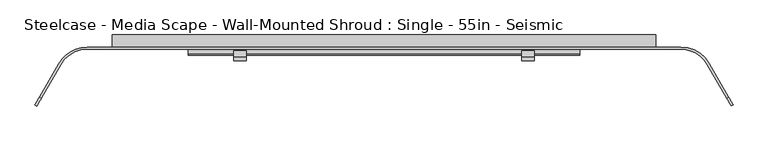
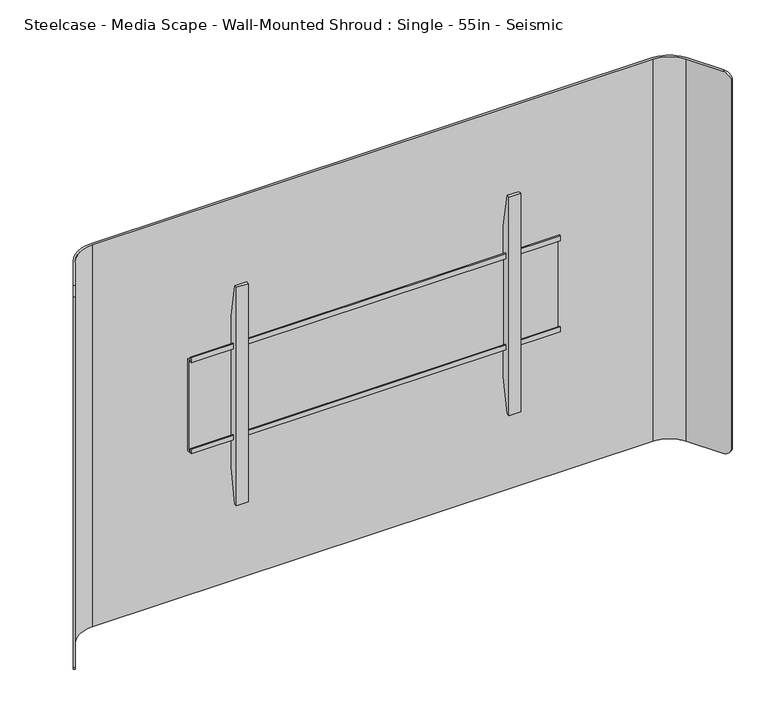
"""IFC4 building model written with IfcOpenShell, lengths in millimetres: furniture geometry, Steelcase - Media Scape - Wall-Mounted Shroud : Single - 55in - Seismic."""

from ifc_helpers import new_model, si_unit, frame, origin, place, context, project, spatial, polyline, circle_curve, outline, extrude, source, transform, mapped, element, save
from ifc_brep_helpers import plane_surface, cylinder_surface, revolved_surface, advanced_brep


def steelcase_media_scape_wall_mounted_shroud_single_55in_8a6e21d3(model_context):
    return source(origin(), model_context, "Body", "SolidModel", [
        extrude(outline(polyline([(-42.4942785, 1383.7004726), (-42.4942785, 1395.7145649), (-39.8272175, 1395.7145649), (-39.8272175, 1386.367461), (-29.9720009, 1386.367461), (-29.9720009, 1172.0422438), (-42.3164551, 1172.0422438), (-42.3164551, 1182.9642515), (-39.649394, 1182.9642515), (-39.649394, 1174.707052), (-32.6531824, 1174.707052), (-32.6531824, 1383.7004726), (-42.4942785, 1383.7004726)])), frame((-406.4, 0.0, 0.0), z_axis=(1.0, 0.0, 0.0), x_axis=(0.0, 1.0, 0.0)), (0.0, 0.0, 1.0), 812.8),
        extrude(outline(polyline([(-32.6531824, 1454.6471148), (-32.6531824, 1102.8325607), (-46.5049349, 1025.2046949), (-53.3399828, 1025.2046949), (-53.3399828, 1533.2047192), (-46.5050076, 1533.2047192), (-32.6531824, 1454.6471148)])), frame((286.6392868, 0.0, 0.0), z_axis=(1.0, 0.0, 0.0), x_axis=(0.0, 1.0, 0.0)), (0.0, 0.0, 1.0), 26.1592872),
        extrude(outline(polyline([(-32.6531824, 1454.6471148), (-32.6531824, 1102.8325607), (-46.5049349, 1025.2046949), (-53.3399828, 1025.2046949), (-53.3399828, 1533.2047192), (-46.5050076, 1533.2047192), (-32.6531824, 1454.6471148)])), frame((-312.798574, 0.0, 0.0), z_axis=(1.0, 0.0, 0.0), x_axis=(0.0, 1.0, 0.0)), (0.0, 0.0, 1.0), 26.1592872),
        extrude(outline(polyline([(565.15, -25.4), (-565.15, -25.4), (-565.15, 0.0), (565.15, 0.0), (565.15, -25.4)])), frame((0.0, 0.0, 835.914), z_axis=(0.0, 0.0, 1.0), x_axis=(1.0, 0.0, 0.0)), (0.0, 0.0, 1.0), 76.2508167),
        advanced_brep(
        [(-671.9586135, -61.722, 1724.914), (-616.966002, -29.9720009, 1724.914), (616.966, -29.9720009, 1724.914), (671.9586135, -61.722, 1724.914), (712.079586, -131.2135628, 1724.914), (716.0390541, -128.9275628, 1724.914), (675.9180817, -59.436, 1724.914), (616.966002, -25.4, 1724.914), (-616.966, -25.4, 1724.914), (-675.9180817, -59.436, 1724.914), (-716.0421659, -128.9329524, 1724.914), (-712.0826977, -131.2189524, 1724.914), (-675.9180817, -59.436, 835.914), (-616.966002, -25.4, 835.914), (616.966, -25.4, 835.914), (675.9180817, -59.436, 835.914), (716.0906629, -129.0169518, 835.914), (712.1311948, -131.3029518, 835.914), (671.9586135, -61.722, 835.914), (616.966002, -29.9720009, 835.914), (-616.966, -29.9720009, 835.914), (-671.9586135, -61.722, 835.914), (-712.1454014, -131.3275584, 835.914), (-716.1048695, -129.0415584, 835.914), (-725.6090632, -145.5033047, 849.5242766), (-725.6090632, -145.5033047, 1710.9227735), (-721.6495951, -147.7893047, 1710.9227735), (-721.6495951, -147.7893047, 849.5242766), (721.6270866, -147.7503189, 849.4756893), (721.6270866, -147.7503189, 1711.0433849), (725.5865547, -145.4643189, 1711.0433849), (725.5865547, -145.4643189, 849.4756893)],
        [
            (0, 1, circle_curve(frame((-616.966002, -93.4719991, 1724.914), z_axis=(0.0, 0.0, -1.0), x_axis=(0.0, 1.0, 0.0)), 63.4999981)),
            (1, 2),
            (2, 3, circle_curve(frame((616.966002, -93.4719991, 1724.914), z_axis=(0.0, 0.0, -1.0), x_axis=(0.0, 1.0, 0.0)), 63.4999981)),
            (3, 4),
            (4, 5),
            (5, 6),
            (6, 7, circle_curve(frame((616.9660004, -93.472, 1724.914), z_axis=(0.0, 0.0, 1.0), x_axis=(0.0, 1.0, 0.0)), 68.072)),
            (7, 8),
            (8, 9, circle_curve(frame((-616.9660004, -93.472, 1724.914), z_axis=(0.0, 0.0, 1.0), x_axis=(0.0, 1.0, 0.0)), 68.072)),
            (9, 10),
            (10, 11),
            (11, 0),
            (12, 13, circle_curve(frame((-616.9660004, -93.472, 835.914), z_axis=(0.0, 0.0, -1.0), x_axis=(0.0, 1.0, 0.0)), 68.072)),
            (13, 14),
            (14, 15, circle_curve(frame((616.9660004, -93.472, 835.914), z_axis=(0.0, 0.0, -1.0), x_axis=(0.0, 1.0, 0.0)), 68.072)),
            (15, 16),
            (16, 17),
            (17, 18),
            (18, 19, circle_curve(frame((616.966002, -93.4719991, 835.914), z_axis=(0.0, 0.0, 1.0), x_axis=(0.0, 1.0, 0.0)), 63.4999981)),
            (19, 20),
            (20, 21, circle_curve(frame((-616.966002, -93.4719991, 835.914), z_axis=(0.0, 0.0, 1.0), x_axis=(0.0, 1.0, 0.0)), 63.4999981)),
            (21, 22),
            (22, 23),
            (23, 12),
            (0, 21),
            (20, 1),
            (8, 13),
            (12, 9),
            (23, 24, circle_curve(frame((-716.1048695, -129.0415584, 855.9928872), z_axis=(-0.8660254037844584, 0.49999999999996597, 0.0), x_axis=(-0.49999999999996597, -0.8660254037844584, 0.0)), 20.0788872)),
            (24, 25),
            (25, 10, circle_curve(frame((-716.0421659, -128.9329524, 1704.8351128), z_axis=(-0.8660254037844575, 0.4999999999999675, 0.0), x_axis=(-0.4999999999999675, -0.8660254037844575, 0.0)), 20.0788872)),
            (26, 25),
            (24, 27),
            (27, 26),
            (11, 26, circle_curve(frame((-712.0826977, -131.2189524, 1704.8351128), z_axis=(0.8660254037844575, -0.4999999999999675, 0.0), x_axis=(-0.4999999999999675, -0.8660254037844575, 0.0)), 20.0788872)),
            (27, 22, circle_curve(frame((-712.1454014, -131.3275584, 855.9928872), z_axis=(0.8660254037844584, -0.49999999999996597, 0.0), x_axis=(-0.49999999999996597, -0.8660254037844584, 0.0)), 20.0788872)),
            (7, 14),
            (19, 2),
            (3, 18),
            (17, 28, circle_curve(frame((712.1311948, -131.3029518, 855.9928872), z_axis=(-0.8660254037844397, -0.49999999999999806, 0.0), x_axis=(0.49999999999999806, -0.8660254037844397, 0.0)), 20.0788872)),
            (28, 29),
            (29, 4, circle_curve(frame((712.079586, -131.2135628, 1704.8351128), z_axis=(-0.8660254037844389, -0.49999999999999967, 0.0), x_axis=(0.49999999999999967, -0.8660254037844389, 0.0)), 20.0788872)),
            (30, 29),
            (28, 31),
            (31, 30),
            (15, 6),
            (5, 30, circle_curve(frame((716.0390541, -128.9275628, 1704.8351128), z_axis=(0.8660254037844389, 0.49999999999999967, 0.0), x_axis=(0.49999999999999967, -0.8660254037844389, 0.0)), 20.0788872)),
            (31, 16, circle_curve(frame((716.0906629, -129.0169518, 855.9928872), z_axis=(0.8660254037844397, 0.49999999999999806, 0.0), x_axis=(0.49999999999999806, -0.8660254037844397, 0.0)), 20.0788872)),
        ],
        [
            plane_surface(frame((-616.966002, -29.9720009, 1724.914), z_axis=(0.0, 0.0, 1.0), x_axis=(1.0, 0.0, 0.0))),
            plane_surface(frame((-616.966002, -29.9720009, 835.914), z_axis=(0.0, 0.0, -1.0), x_axis=(-1.0, 0.0, 0.0))),
            revolved_surface(polyline([(-616.966002, -29.972001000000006, 835.914), (-616.966002, -29.972001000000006, 1724.914)]), (-616.966002, -93.4719991, 835.914), (0.0, 0.0, -1.0)),
            cylinder_surface(frame((-616.9660004, -93.472, 835.914), z_axis=(0.0, 0.0, 1.0), x_axis=(0.0, 1.0, 0.0)), 68.072),
            plane_surface(frame((-675.9180817, -59.436, 1724.914), z_axis=(-0.8660254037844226, 0.5000000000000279, 0.0), x_axis=(0.0, 0.0, -1.0))),
            plane_surface(frame((-725.6090632, -145.5033047, 1724.914), z_axis=(-0.5000000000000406, -0.8660254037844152, 0.0), x_axis=(0.0, 0.0, -1.0))),
            plane_surface(frame((-721.6495951, -147.7893047, 1724.914), z_axis=(0.8660254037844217, -0.5000000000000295, 0.0), x_axis=(0.0, 0.0, -1.0))),
            plane_surface(frame((616.966, -25.4, 1724.914), z_axis=(0.0, 1.0, 0.0), x_axis=(0.0, 0.0, -1.0))),
            plane_surface(frame((-616.966, -29.9720009, 1724.914), z_axis=(0.0, -1.0, 0.0), x_axis=(0.0, 0.0, -1.0))),
            plane_surface(frame((671.9586135, -61.722, 1724.914), z_axis=(-0.8660254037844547, -0.4999999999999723, 0.0), x_axis=(0.0, 0.0, -1.0))),
            plane_surface(frame((721.6270866, -147.7503189, 1724.914), z_axis=(0.4999999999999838, -0.866025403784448, 0.0), x_axis=(0.0, 0.0, -1.0))),
            plane_surface(frame((725.5865547, -145.4643189, 1724.914), z_axis=(0.8660254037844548, 0.49999999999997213, 0.0), x_axis=(0.0, 0.0, -1.0))),
            cylinder_surface(frame((616.9660004, -93.472, 835.914), z_axis=(0.0, 0.0, 1.0), x_axis=(0.0, 1.0, 0.0)), 68.072),
            revolved_surface(polyline([(616.966002, -29.972001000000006, 835.914), (616.966002, -29.972001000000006, 1724.914)]), (616.966002, -93.4719991, 835.914), (0.0, 0.0, -1.0)),
            cylinder_surface(frame((-712.0826977, -131.2189524, 1704.8351128), z_axis=(0.8660254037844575, -0.4999999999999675, 0.0), x_axis=(-0.4999999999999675, -0.8660254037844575, 0.0)), 20.0788872),
            cylinder_surface(frame((-712.1454014, -131.3275584, 855.9928872), z_axis=(0.8660254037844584, -0.49999999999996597, 0.0), x_axis=(-0.49999999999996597, -0.8660254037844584, 0.0)), 20.0788872),
            cylinder_surface(frame((727.1864297, -122.4916225, 1704.8351128), z_axis=(0.8660254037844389, 0.49999999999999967, 0.0), x_axis=(0.49999999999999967, -0.8660254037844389, 0.0)), 20.0788872),
            cylinder_surface(frame((724.3789695, -124.2316958, 855.9928872), z_axis=(0.8660254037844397, 0.49999999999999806, 0.0), x_axis=(0.49999999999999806, -0.8660254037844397, 0.0)), 20.0788872),
        ],
        [
            (0, [[1, 2, 3, 4, 5, 6, 7, 8, 9, 10, 11, 12]]),
            (1, [[13, 14, 15, 16, 17, 18, 19, 20, 21, 22, 23, 24]]),
            (2, [[-1, 25, -21, 26]]),
            (3, [[-9, 27, -13, 28]]),
            (4, [[-28, -24, 29, 30, 31, -10]]),
            (5, [[32, -30, 33, 34]]),
            (6, [[-25, -12, 35, -34, 36, -22]]),
            (7, [[-8, 37, -14, -27]]),
            (8, [[-2, -26, -20, 38]]),
            (9, [[39, -18, 40, 41, 42, -4]]),
            (10, [[43, -41, 44, 45]]),
            (11, [[46, -6, 47, -45, 48, -16]]),
            (12, [[-7, -46, -15, -37]]),
            (13, [[-3, -38, -19, -39]]),
            (14, [[-11, -31, -32, -35]]),
            (15, [[-23, -36, -33, -29]]),
            (16, [[-5, -42, -43, -47]]),
            (17, [[-17, -48, -44, -40]]),
        ],
    ),
        extrude(outline(polyline([(912.1648167, 501.6499879), (912.1648167, 565.15), (1648.714, 565.15), (1648.714, -565.15), (912.1648167, -565.15), (912.1648167, -502.6433465), (1585.2139516, -502.6433465), (1585.2139516, 501.6499879), (912.1648167, 501.6499879)])), frame((0.0, -25.4, 0.0), z_axis=(0.0, 1.0, 0.0), x_axis=(0.0, 0.0, 1.0)), (0.0, 0.0, 1.0), 25.4),
    ])


if __name__ == "__main__":
    model = new_model("IFC4")
    model_context = context("Model", 3, world=origin())
    ifc_project = project(units=[si_unit("LENGTHUNIT", "METRE", prefix="MILLI")], contexts=[model_context])
    site = spatial("IfcSite", under=ifc_project)
    building = spatial("IfcBuilding", under=site)
    placement = place(None, origin())
    steelcase_media_scape_wall_mounted_shroud_single_55in_shape = steelcase_media_scape_wall_mounted_shroud_single_55in_8a6e21d3(model_context)
    element("IfcFurniture", 1, ObjectType="Steelcase - Media Scape - Wall-Mounted Shroud : Single - 55in - Seismic", at=placement, inside=building, context=model_context, shape_type="MappedRepresentation", body=[
        mapped(steelcase_media_scape_wall_mounted_shroud_single_55in_shape, transform((0.0, 0.0, 0.0), x_axis=(1.0, 0.0, 0.0), y_axis=(0.0, 1.0, 0.0), z_axis=(0.0, 0.0, 1.0))),
    ])
    save(model, "model.ifc")
